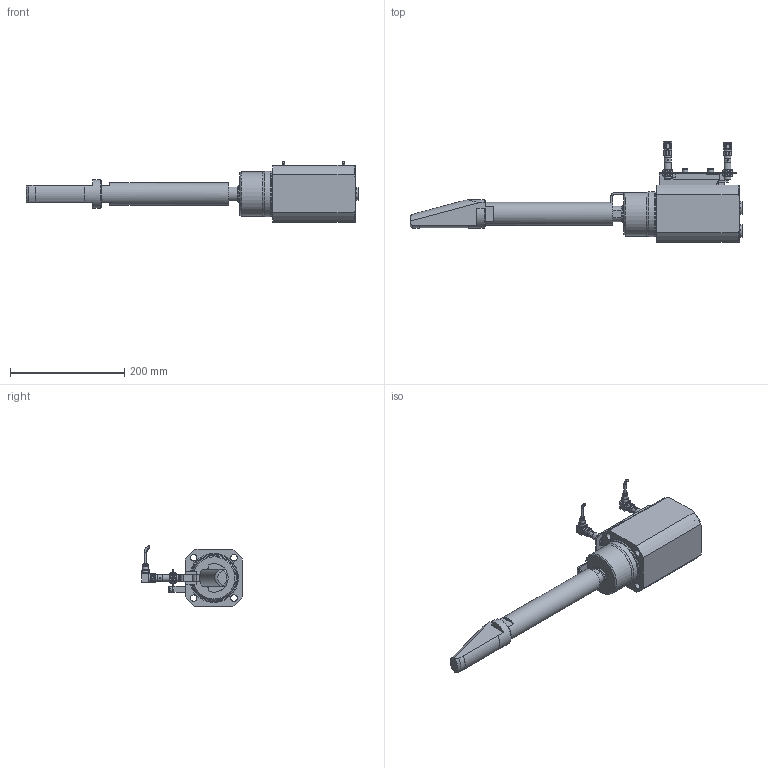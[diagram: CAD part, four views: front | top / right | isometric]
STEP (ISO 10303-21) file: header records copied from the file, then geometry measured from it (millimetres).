
FILE_DESCRIPTION(/* description */ (''),/* implementation_level */ '2;1');
FILE_NAME(/* name */ 'P:\Standard products\1. QMC Clamping Systems\6. HECS - Integrated Wedge Clamp\HECS-70\HECS-70-2200 (06-02-20).stp',/* time_stamp */ '2020-02-06T10:58:26+01:00',/* author */ ('breep'),/* organization */ (''),/* preprocessor_version */ 'ST-DEVELOPER v17.2',/* originating_system */ 'Autodesk Inventor 2019',/* authorisation */ '');
FILE_SCHEMA (('AUTOMOTIVE_DESIGN { 1 0 10303 214 3 1 1 }'));
Length unit declared in the file: millimetre
Products named in the file (1): Part1
Bounding box: 581.8 x 176.66 x 106.75 mm (x, y, z)
Volume: 1919480.8 mm3; surface area: 241209.1 mm2
Topology: 1 solids, 1 shells, 563 faces, 1555 edges, 1036 vertices
Faces by surface type: plane 230, cylinder 197, cone 63, torus 45, sphere 16, bspline 12
Full cylindrical faces by diameter (mm): 2.179 x8, 4 x2, 4.917 x2, 5 x1, 6 x1, 10 x2, 11 x3, 11.5 x4, 11.6 x2, 12 x6, 12.2 x1, 14 x2, 14.95 x1, 17.5 x4, 29 x2, 29.35 x1, 29.95 x1, 30 x2, 33.95 x1, 38 x1, 40 x1, 44.95 x2, 45 x1
Entity records: 19443 total; most frequent: CARTESIAN_POINT 4234, DIRECTION 3138, ORIENTED_EDGE 3068, EDGE_CURVE 1534, AXIS2_PLACEMENT_3D 1234, VERTEX_POINT 1036, CIRCLE 680, LINE 670
